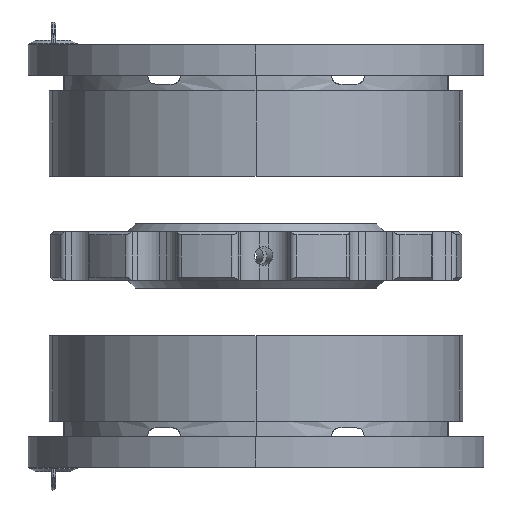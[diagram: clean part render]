
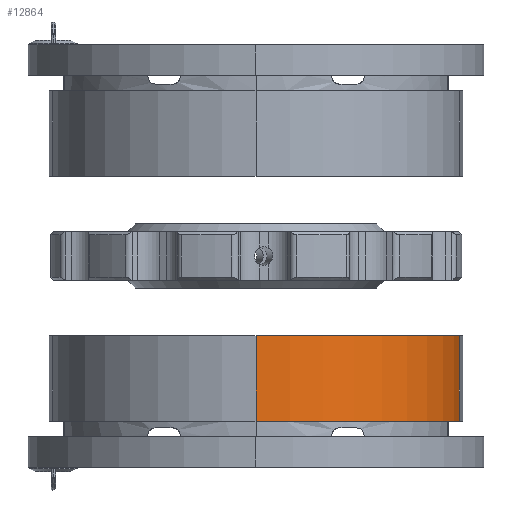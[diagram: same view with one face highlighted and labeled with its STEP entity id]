
A CAD part, left-side view. The second image highlights one B-rep face of the part: STEP entity #12864.
In plain terms, the highlighted cylindrical face has radius 66.5 mm (diameter 133 mm), a partial arc.
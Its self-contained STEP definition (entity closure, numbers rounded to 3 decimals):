
#1270 = EDGE_LOOP ( 'NONE', ( #3533, #3110, #3531, #3195 ) ) ;
#2222 = VERTEX_POINT ( 'NONE', #12941 ) ;
#2232 = VERTEX_POINT ( 'NONE', #12931 ) ;
#2299 = VERTEX_POINT ( 'NONE', #4727 ) ;
#2374 = VERTEX_POINT ( 'NONE', #4794 ) ;
#2510 = AXIS2_PLACEMENT_3D ( 'NONE', #4240, #4238, #4237 ) ;
#2511 = AXIS2_PLACEMENT_3D ( 'NONE', #4250, #4248, #4247 ) ;
#2595 = EDGE_CURVE ( 'NONE', #2299, #2222, #12013, .T. ) ;
#2596 = EDGE_CURVE ( 'NONE', #2299, #2374, #12014, .T. ) ;
#2597 = EDGE_CURVE ( 'NONE', #2374, #2232, #12010, .T. ) ;
#2598 = EDGE_CURVE ( 'NONE', #2232, #2222, #12011, .T. ) ;
#3110 = ORIENTED_EDGE ( 'NONE', *, *, #2596, .T. ) ;
#3195 = ORIENTED_EDGE ( 'NONE', *, *, #2598, .T. ) ;
#3531 = ORIENTED_EDGE ( 'NONE', *, *, #2597, .T. ) ;
#3533 = ORIENTED_EDGE ( 'NONE', *, *, #2595, .F. ) ;
#4234 = DIRECTION ( 'NONE',  ( 0., 0., 1. ) ) ;
#4235 = CARTESIAN_POINT ( 'NONE',  ( -51.671, -25.566, 3.8 ) ) ;
#4237 = DIRECTION ( 'NONE',  ( 1., 0., 0. ) ) ;
#4238 = DIRECTION ( 'NONE',  ( 0., 0., 1. ) ) ;
#4240 = CARTESIAN_POINT ( 'NONE',  ( -46.957, 40.767, -10.2 ) ) ;
#4243 = DIRECTION ( 'NONE',  ( 0., 0., -1. ) ) ;
#4244 = CARTESIAN_POINT ( 'NONE',  ( -113.457, 40.767, 8.8 ) ) ;
#4247 = DIRECTION ( 'NONE',  ( 1., 0., 0. ) ) ;
#4248 = DIRECTION ( 'NONE',  ( 0., 0., 1. ) ) ;
#4250 = CARTESIAN_POINT ( 'NONE',  ( -46.957, 40.767, 17.8 ) ) ;
#4727 = CARTESIAN_POINT ( 'NONE',  ( -113.457, 40.767, 17.8 ) ) ;
#4794 = CARTESIAN_POINT ( 'NONE',  ( -113.457, 40.767, -10.2 ) ) ;
#5843 = CYLINDRICAL_SURFACE ( 'NONE', #10126, 66.5 ) ;
#5844 = FACE_OUTER_BOUND ( 'NONE', #1270, .T. ) ;
#10126 = AXIS2_PLACEMENT_3D ( 'NONE', #13924, #13925, #13926 ) ;
#12009 = VECTOR ( 'NONE', #4234, 1000. ) ;
#12010 = CIRCLE ( 'NONE', #2510, 66.5 ) ;
#12011 = LINE ( 'NONE', #4235, #12009 ) ;
#12012 = VECTOR ( 'NONE', #4243, 1000. ) ;
#12013 = CIRCLE ( 'NONE', #2511, 66.5 ) ;
#12014 = LINE ( 'NONE', #4244, #12012 ) ;
#12864 = ADVANCED_FACE ( 'NONE', ( #5844 ), #5843, .T. ) ;
#12931 = CARTESIAN_POINT ( 'NONE',  ( -51.671, -25.566, -10.2 ) ) ;
#12941 = CARTESIAN_POINT ( 'NONE',  ( -51.671, -25.566, 17.8 ) ) ;
#13924 = CARTESIAN_POINT ( 'NONE',  ( -46.957, 40.767, 8.8 ) ) ;
#13925 = DIRECTION ( 'NONE',  ( 0., 0., -1. ) ) ;
#13926 = DIRECTION ( 'NONE',  ( -1., 0., 0. ) ) ;
